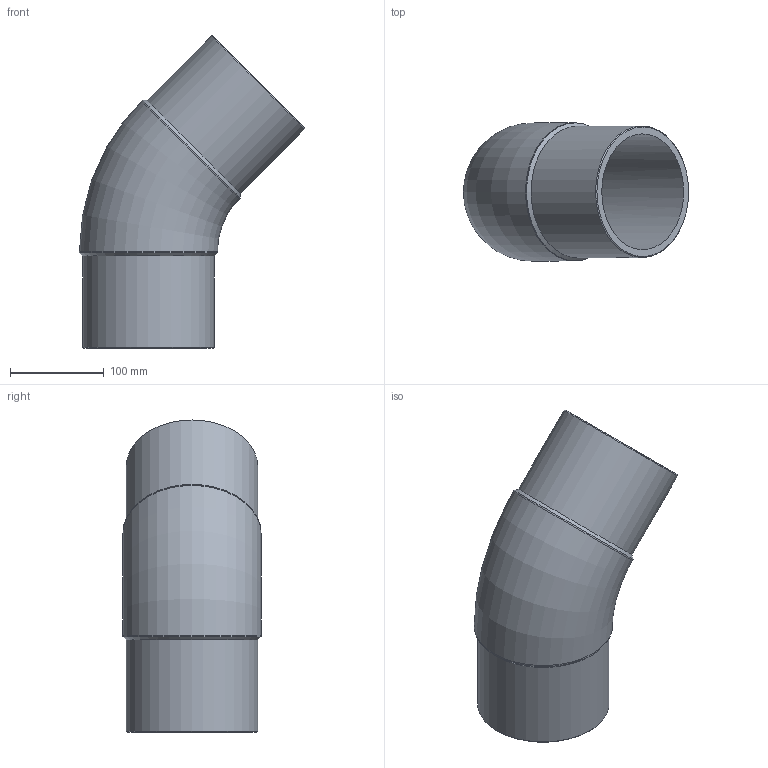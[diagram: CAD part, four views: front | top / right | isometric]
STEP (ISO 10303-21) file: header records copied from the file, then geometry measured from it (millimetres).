
FILE_DESCRIPTION(/* description */ ('Unknown'),/* implementation_level */ '2;1');
FILE_NAME(/* name */ 'G4P140B',/* time_stamp */ '2022-01-21T15:08:15+01:00',/* author */ ('Unknown'),/* organization */ ('Unknown'),/* preprocessor_version */ 'ST-DEVELOPER v18.1',/* originating_system */ 'Solid Edge',/* authorisation */ 'Unknown');
FILE_SCHEMA (('AUTOMOTIVE_DESIGN {1 0 10303 214 3 1 1}'));
Length unit declared in the file: millimetre
Products named in the file (1): G4P140B
Bounding box: 239.67 x 147 x 332.17 mm (x, y, z)
Volume: 1344882.9 mm3; surface area: 279685.2 mm2
Topology: 1 solids, 1 shells, 14 faces, 34 edges, 22 vertices
Faces by surface type: cylinder 6, cone 4, plane 2, torus 2
Full cylindrical faces by diameter (mm): 123.4 x2, 140 x2, 147 x2
Entity records: 368 total; most frequent: CARTESIAN_POINT 68, DIRECTION 60, ORIENTED_EDGE 38, AXIS2_PLACEMENT_3D 30, EDGE_LOOP 27, FACE_BOUND 27, EDGE_CURVE 19, VERTEX_POINT 18
